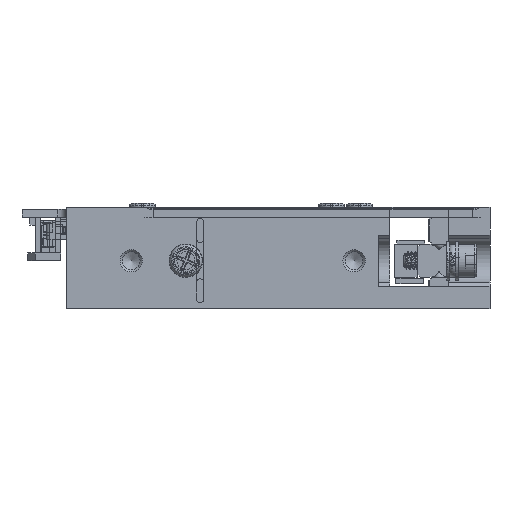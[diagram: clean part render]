
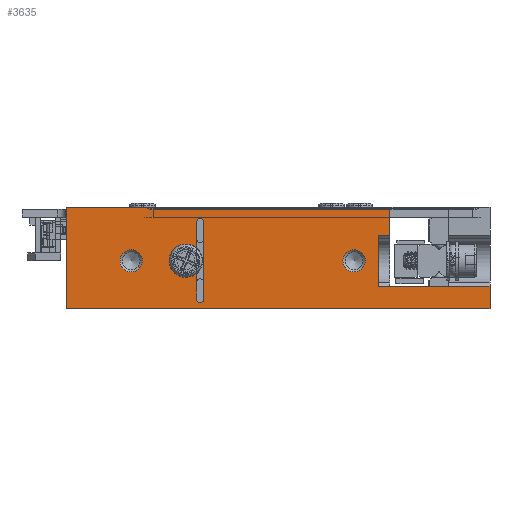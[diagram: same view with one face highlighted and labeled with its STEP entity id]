
A CAD part, left-side view. The second image highlights one B-rep face of the part: STEP entity #3635.
In plain terms, the highlighted planar face has unit normal (-1, 0, 0).
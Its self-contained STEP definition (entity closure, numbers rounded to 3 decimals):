
#995=PLANE('',#56308);
#3247=FACE_BOUND('',#9456,.T.);
#3248=FACE_BOUND('',#9457,.T.);
#3249=FACE_BOUND('',#9458,.T.);
#3250=FACE_BOUND('',#9459,.T.);
#3635=ADVANCED_FACE('',(#3247,#3248,#3249,#3250),#995,.F.);
#9456=EDGE_LOOP('',(#26548));
#9457=EDGE_LOOP('',(#26549));
#9458=EDGE_LOOP('',(#26550,#26551,#26552,#26553,#26554,#26555));
#9459=EDGE_LOOP('',(#26556,#26557,#26558,#26559,#26560,#26561,#26562,#26563,
#26564,#26565,#26566,#26567));
#12424=LINE('',#74555,#19375);
#12425=LINE('',#74560,#19376);
#12426=LINE('',#74564,#19377);
#12427=LINE('',#74567,#19378);
#12428=LINE('',#74570,#19379);
#12429=LINE('',#74572,#19380);
#12430=LINE('',#74574,#19381);
#12431=LINE('',#74576,#19382);
#12432=LINE('',#74578,#19383);
#12433=LINE('',#74580,#19384);
#12434=LINE('',#74582,#19385);
#12435=LINE('',#74584,#19386);
#12436=LINE('',#74586,#19387);
#12437=LINE('',#74588,#19388);
#12438=LINE('',#74590,#19389);
#19375=VECTOR('',#60241,1.);
#19376=VECTOR('',#60244,1.);
#19377=VECTOR('',#60247,1.);
#19378=VECTOR('',#60250,1.);
#19379=VECTOR('',#60251,1.);
#19380=VECTOR('',#60252,1.);
#19381=VECTOR('',#60253,1.);
#19382=VECTOR('',#60254,1.);
#19383=VECTOR('',#60255,1.);
#19384=VECTOR('',#60256,1.);
#19385=VECTOR('',#60257,1.);
#19386=VECTOR('',#60258,1.);
#19387=VECTOR('',#60259,1.);
#19388=VECTOR('',#60260,1.);
#19389=VECTOR('',#60261,1.);
#26548=ORIENTED_EDGE('',*,*,#47476,.T.);
#26549=ORIENTED_EDGE('',*,*,#47477,.T.);
#26550=ORIENTED_EDGE('',*,*,#47478,.F.);
#26551=ORIENTED_EDGE('',*,*,#47479,.T.);
#26552=ORIENTED_EDGE('',*,*,#47480,.F.);
#26553=ORIENTED_EDGE('',*,*,#47481,.F.);
#26554=ORIENTED_EDGE('',*,*,#47482,.F.);
#26555=ORIENTED_EDGE('',*,*,#47483,.F.);
#26556=ORIENTED_EDGE('',*,*,#47484,.F.);
#26557=ORIENTED_EDGE('',*,*,#47485,.T.);
#26558=ORIENTED_EDGE('',*,*,#47486,.F.);
#26559=ORIENTED_EDGE('',*,*,#47487,.F.);
#26560=ORIENTED_EDGE('',*,*,#47488,.T.);
#26561=ORIENTED_EDGE('',*,*,#47489,.T.);
#26562=ORIENTED_EDGE('',*,*,#47490,.T.);
#26563=ORIENTED_EDGE('',*,*,#47491,.T.);
#26564=ORIENTED_EDGE('',*,*,#47492,.T.);
#26565=ORIENTED_EDGE('',*,*,#47493,.F.);
#26566=ORIENTED_EDGE('',*,*,#47494,.T.);
#26567=ORIENTED_EDGE('',*,*,#47495,.T.);
#42190=VERTEX_POINT('',#74552);
#42191=VERTEX_POINT('',#74554);
#42192=VERTEX_POINT('',#74556);
#42193=VERTEX_POINT('',#74557);
#42194=VERTEX_POINT('',#74559);
#42195=VERTEX_POINT('',#74561);
#42196=VERTEX_POINT('',#74563);
#42197=VERTEX_POINT('',#74565);
#42198=VERTEX_POINT('',#74568);
#42199=VERTEX_POINT('',#74569);
#42200=VERTEX_POINT('',#74571);
#42201=VERTEX_POINT('',#74573);
#42202=VERTEX_POINT('',#74575);
#42203=VERTEX_POINT('',#74577);
#42204=VERTEX_POINT('',#74579);
#42205=VERTEX_POINT('',#74581);
#42206=VERTEX_POINT('',#74583);
#42207=VERTEX_POINT('',#74585);
#42208=VERTEX_POINT('',#74587);
#42209=VERTEX_POINT('',#74589);
#47476=EDGE_CURVE('',#42190,#42190,#55311,.T.);
#47477=EDGE_CURVE('',#42191,#42191,#55312,.T.);
#47478=EDGE_CURVE('',#42192,#42193,#12424,.T.);
#47479=EDGE_CURVE('',#42192,#42194,#55313,.T.);
#47480=EDGE_CURVE('',#42195,#42194,#12425,.T.);
#47481=EDGE_CURVE('',#42196,#42195,#55314,.T.);
#47482=EDGE_CURVE('',#42197,#42196,#12426,.T.);
#47483=EDGE_CURVE('',#42193,#42197,#55315,.T.);
#47484=EDGE_CURVE('',#42198,#42199,#12427,.T.);
#47485=EDGE_CURVE('',#42198,#42200,#12428,.T.);
#47486=EDGE_CURVE('',#42201,#42200,#12429,.T.);
#47487=EDGE_CURVE('',#42202,#42201,#12430,.T.);
#47488=EDGE_CURVE('',#42202,#42203,#12431,.T.);
#47489=EDGE_CURVE('',#42203,#42204,#12432,.T.);
#47490=EDGE_CURVE('',#42204,#42205,#12433,.T.);
#47491=EDGE_CURVE('',#42205,#42206,#12434,.T.);
#47492=EDGE_CURVE('',#42206,#42207,#12435,.T.);
#47493=EDGE_CURVE('',#42208,#42207,#12436,.T.);
#47494=EDGE_CURVE('',#42208,#42209,#12437,.T.);
#47495=EDGE_CURVE('',#42209,#42199,#12438,.T.);
#55311=CIRCLE('',#56303,1.);
#55312=CIRCLE('',#56304,1.);
#55313=CIRCLE('',#56305,1.);
#55314=CIRCLE('',#56306,0.325);
#55315=CIRCLE('',#56307,0.325);
#56303=AXIS2_PLACEMENT_3D('',#74551,#60237,#60238);
#56304=AXIS2_PLACEMENT_3D('',#74553,#60239,#60240);
#56305=AXIS2_PLACEMENT_3D('',#74558,#60242,#60243);
#56306=AXIS2_PLACEMENT_3D('',#74562,#60245,#60246);
#56307=AXIS2_PLACEMENT_3D('',#74566,#60248,#60249);
#56308=AXIS2_PLACEMENT_3D('',#74591,#60262,#60263);
#60237=DIRECTION('',(1.,0.,0.));
#60238=DIRECTION('',(0.,1.,0.));
#60239=DIRECTION('',(1.,0.,0.));
#60240=DIRECTION('',(0.,1.,0.));
#60241=DIRECTION('',(0.,0.,-1.));
#60242=DIRECTION('',(1.,0.,0.));
#60243=DIRECTION('',(0.,1.,0.));
#60244=DIRECTION('',(0.,0.,-1.));
#60245=DIRECTION('',(-1.,0.,0.));
#60246=DIRECTION('',(0.,0.,1.));
#60247=DIRECTION('',(0.,0.,1.));
#60248=DIRECTION('',(-1.,0.,0.));
#60249=DIRECTION('',(0.,0.,1.));
#60250=DIRECTION('',(0.,0.,-1.));
#60251=DIRECTION('',(0.,1.,0.));
#60252=DIRECTION('',(0.,0.,1.));
#60253=DIRECTION('',(0.,-1.,0.));
#60254=DIRECTION('',(0.,0.,1.));
#60255=DIRECTION('',(0.,1.,0.));
#60256=DIRECTION('',(0.,0.,1.));
#60257=DIRECTION('',(0.,-1.,0.));
#60258=DIRECTION('',(0.,0.,1.));
#60259=DIRECTION('',(0.,-1.,0.));
#60260=DIRECTION('',(0.,0.,-1.));
#60261=DIRECTION('',(0.,-1.,0.));
#60262=DIRECTION('',(1.,0.,0.));
#60263=DIRECTION('',(0.,1.,0.));
#74551=CARTESIAN_POINT('',(-15.,12.2,4.3));
#74552=CARTESIAN_POINT('',(-15.,13.2,4.3));
#74553=CARTESIAN_POINT('',(-15.,32.2,4.3));
#74554=CARTESIAN_POINT('',(-15.,33.2,4.3));
#74555=CARTESIAN_POINT('',(-15.,26.325,2.35));
#74556=CARTESIAN_POINT('',(-15.,26.325,4.078));
#74557=CARTESIAN_POINT('',(-15.,26.325,0.85));
#74558=CARTESIAN_POINT('',(-15.,27.3,4.3));
#74559=CARTESIAN_POINT('',(-15.,26.325,4.522));
#74560=CARTESIAN_POINT('',(-15.,26.325,2.35));
#74561=CARTESIAN_POINT('',(-15.,26.325,7.75));
#74562=CARTESIAN_POINT('',(-15.,26.,7.75));
#74563=CARTESIAN_POINT('',(-15.,25.675,7.75));
#74564=CARTESIAN_POINT('',(-15.,25.675,0.85));
#74565=CARTESIAN_POINT('',(-15.,25.675,0.85));
#74566=CARTESIAN_POINT('',(-15.,26.,0.85));
#74567=CARTESIAN_POINT('',(-15.,0.,9.1));
#74568=CARTESIAN_POINT('',(-15.,0.,2.009));
#74569=CARTESIAN_POINT('',(-15.,0.,0.));
#74570=CARTESIAN_POINT('',(-15.,3.7,2.009));
#74571=CARTESIAN_POINT('',(-15.,3.7,2.009));
#74572=CARTESIAN_POINT('',(-15.,3.7,2.));
#74573=CARTESIAN_POINT('',(-15.,3.7,2.));
#74574=CARTESIAN_POINT('',(-15.,9.,2.));
#74575=CARTESIAN_POINT('',(-15.,9.,2.));
#74576=CARTESIAN_POINT('',(-15.,9.,2.));
#74577=CARTESIAN_POINT('',(-15.,9.,2.009));
#74578=CARTESIAN_POINT('',(-15.,10.,2.009));
#74579=CARTESIAN_POINT('',(-15.,10.,2.009));
#74580=CARTESIAN_POINT('',(-15.,10.,2.3));
#74581=CARTESIAN_POINT('',(-15.,10.,6.591));
#74582=CARTESIAN_POINT('',(-15.,9.,6.591));
#74583=CARTESIAN_POINT('',(-15.,9.,6.591));
#74584=CARTESIAN_POINT('',(-15.,9.,2.));
#74585=CARTESIAN_POINT('',(-15.,9.,9.1));
#74586=CARTESIAN_POINT('',(-15.,38.,9.1));
#74587=CARTESIAN_POINT('',(-15.,38.,9.1));
#74588=CARTESIAN_POINT('',(-15.,38.,9.1));
#74589=CARTESIAN_POINT('',(-15.,38.,0.));
#74590=CARTESIAN_POINT('',(-15.,38.,0.));
#74591=CARTESIAN_POINT('',(-15.,38.,9.1));
